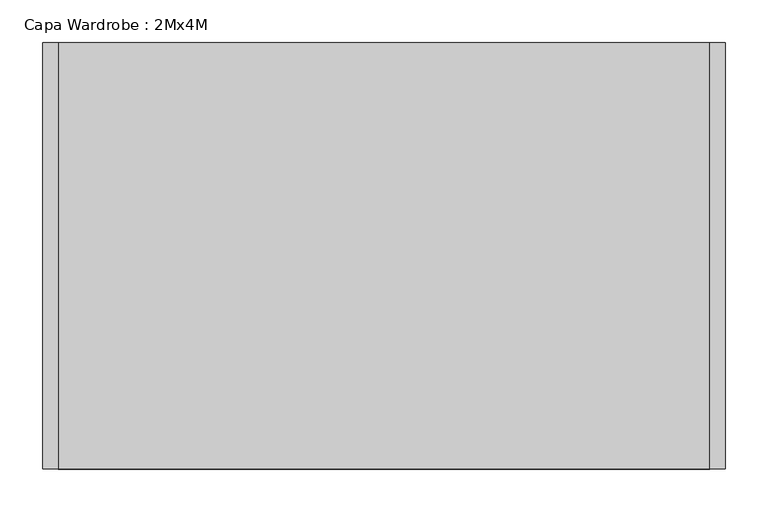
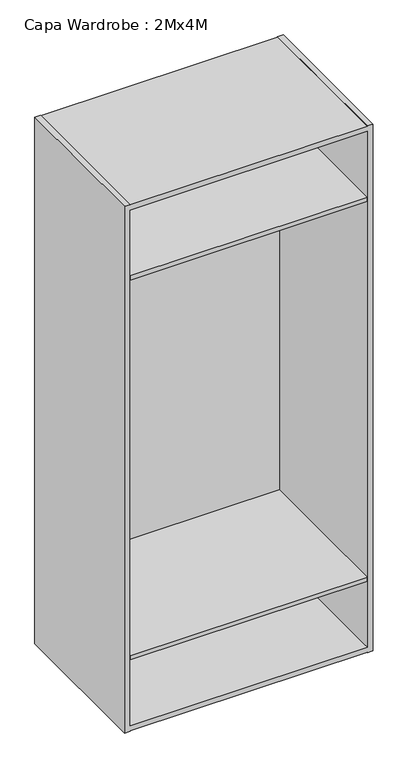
"""IFC4 building model written with IfcOpenShell, lengths in millimetres: furniture geometry, Capa Wardrobe : 2Mx4M."""

from ifc_helpers import new_model, si_unit, point, frame, frame_2d, origin, place, context, project, spatial, polyline, circle_curve, trimmed, segment, composite_curve, outline, extrude, faceted_brep, source, transform, mapped, element, save


def capa_wardrobe_2mx4m_9b4669dd(model_context):
    return source(origin(), model_context, "Body", "SolidModel", [
        extrude(outline(polyline([(382.0, -500.0), (-382.0, -500.0), (-382.0, -10.0), (382.0, -10.0), (382.0, -500.0)])), frame((0.0, 0.0, 1535.0), z_axis=(0.0, 0.0, 1.0), x_axis=(1.0, 0.0, 0.0)), (0.0, 0.0, 1.0), 14.0),
        extrude(outline(polyline([(382.0, -500.0), (-382.0, -500.0), (-382.0, -10.0), (382.0, -10.0), (382.0, -500.0)])), frame((0.0, 0.0, 243.0), z_axis=(0.0, 0.0, 1.0), x_axis=(1.0, 0.0, 0.0)), (0.0, 0.0, 1.0), 14.0),
        extrude(outline(composite_curve([segment(polyline([(-250.0, 1442.0), (-250.0, 1422.0)]), True, "CONTINUOUS"), segment(trimmed(circle_curve(frame_2d((-258.0, 1422.0)), 8.0), [point((-250.0, 1422.0))], [point((-266.0, 1422.0))], False, "CARTESIAN"), True, "CONTINUOUS"), segment(polyline([(-266.0, 1422.0), (-266.0, 1442.0)]), True, "CONTINUOUS"), segment(trimmed(circle_curve(frame_2d((-258.0, 1442.0)), 8.0), [point((-266.0, 1442.0))], [point((-250.0, 1442.0))], False, "CARTESIAN"), True, "CONTINUOUS")], self_intersect=False)), frame((-382.0, 0.0, 0.0), z_axis=(1.0, 0.0, 0.0), x_axis=(0.0, 1.0, 0.0)), (0.0, 0.0, 1.0), 764.0),
        faceted_brep([(-382.0, 0.0, 1792.0), (-382.0, 0.0, 1791.0), (382.0, 0.0, 1791.0), (382.0, 0.0, 1792.0), (400.0, 0.0, 1792.0), (400.0, 0.0, 0.0), (382.0, 0.0, 0.0), (382.0, 0.0, 1.0), (-382.0, 0.0, 1.0), (-382.0, 0.0, 0.0), (-400.0, 0.0, 0.0), (-400.0, 0.0, 1792.0), (382.0, -10.0, 19.0), (382.0, -10.0, 1773.0), (-382.0, -10.0, 1773.0), (-382.0, -10.0, 19.0), (-382.0, -500.0, 1792.0), (-400.0, -500.0, 1792.0), (-400.0, -500.0, 0.0), (-382.0, -500.0, 0.0), (-382.0, -500.0, 1.0), (382.0, -500.0, 1.0), (382.0, -500.0, 0.0), (400.0, -500.0, 0.0), (400.0, -500.0, 1792.0), (382.0, -500.0, 1792.0), (382.0, -500.0, 1791.0), (-382.0, -500.0, 1791.0), (382.0, -500.0, 1773.0), (382.0, -500.0, 19.0), (-382.0, -500.0, 19.0), (-382.0, -500.0, 1773.0)], [[[0, 1, 2, 3, 4, 5, 6, 7, 8, 9, 10, 11]], [[12, 13, 14, 15]], [[16, 17, 18, 19, 20, 21, 22, 23, 24, 25, 26, 27], [28, 29, 30, 31]], [[17, 16, 0, 11]], [[18, 17, 11, 10]], [[23, 22, 6, 5]], [[24, 23, 5, 4]], [[19, 18, 10, 9]], [[20, 19, 9, 8]], [[21, 20, 8, 7]], [[22, 21, 7, 6]], [[25, 24, 4, 3]], [[26, 25, 3, 2]], [[27, 26, 2, 1]], [[16, 27, 1, 0]], [[29, 28, 13, 12]], [[30, 29, 12, 15]], [[31, 30, 15, 14]], [[28, 31, 14, 13]]]),
    ])


if __name__ == "__main__":
    model = new_model("IFC4")
    model_context = context("Model", 3, world=origin())
    ifc_project = project(units=[si_unit("LENGTHUNIT", "METRE", prefix="MILLI")], contexts=[model_context])
    site = spatial("IfcSite", under=ifc_project)
    building = spatial("IfcBuilding", under=site)
    placement = place(None, origin())
    capa_wardrobe_2mx4m_shape = capa_wardrobe_2mx4m_9b4669dd(model_context)
    element("IfcFurniture", 1, ObjectType="Capa Wardrobe : 2Mx4M", at=placement, inside=building, context=model_context, shape_type="MappedRepresentation", body=[
        mapped(capa_wardrobe_2mx4m_shape, transform((0.0, 0.0, 0.0), x_axis=(1.0, 0.0, 0.0), y_axis=(0.0, 1.0, 0.0), z_axis=(0.0, 0.0, 1.0))),
    ])
    save(model, "model.ifc")
